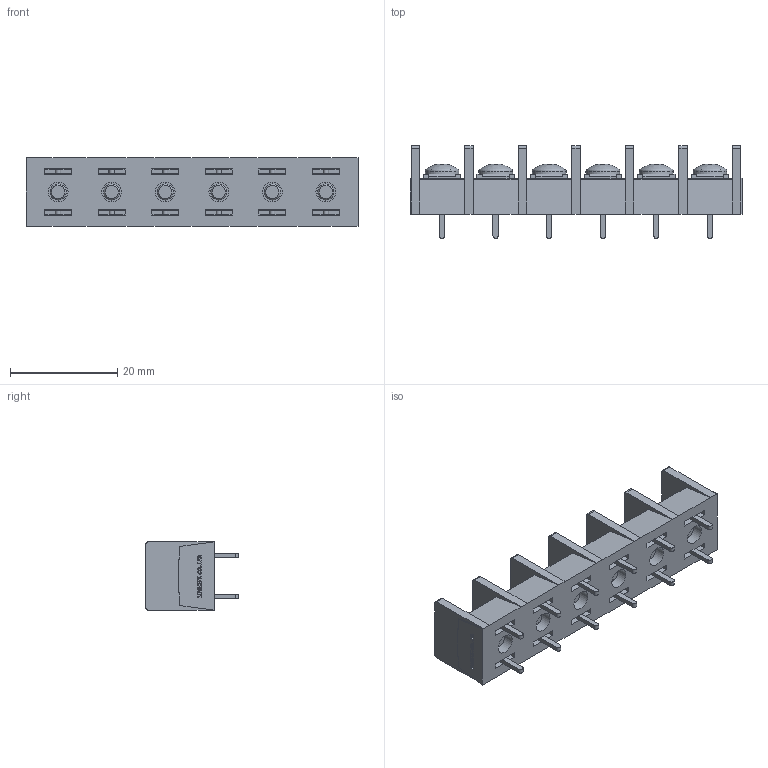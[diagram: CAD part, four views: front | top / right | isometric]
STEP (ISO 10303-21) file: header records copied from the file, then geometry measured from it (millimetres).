
FILE_DESCRIPTION(/* description */ ('Alibre Inc.'),/* implementation_level */ '2;1');
FILE_NAME(/* name */ 'export0',/* time_stamp */ '2015-10-23T18:02:29+09:00',/* author */ (''),/* organization */ (''),/* preprocessor_version */ 'ST-DEVELOPER v14',/* originating_system */ 'Alibre',/* authorisation */ '');
FILE_SCHEMA (('CONFIG_CONTROL_DESIGN'));
Length unit declared in the file: centimetre
Products named in the file (1): ID_1
Bounding box: 62 x 17.3 x 12.8 mm (x, y, z)
Volume: 5798.2 mm3; surface area: 6907.1 mm2
Topology: 1 solids, 103 shells, 2100 faces, 5402 edges, 3572 vertices
Faces by surface type: plane 1568, bspline 416, cylinder 68, cone 30, torus 12, sphere 6
Full cylindrical faces by diameter (mm): 3 x12, 3.7 x6, 4.6 x6, 6.3 x6
Entity records: 60789 total; most frequent: CARTESIAN_POINT 14729, ORIENTED_EDGE 10696, DIRECTION 6328, EDGE_CURVE 5348, VECTOR 4120, LINE 4120, VERTEX_POINT 3566, EDGE_LOOP 2296
